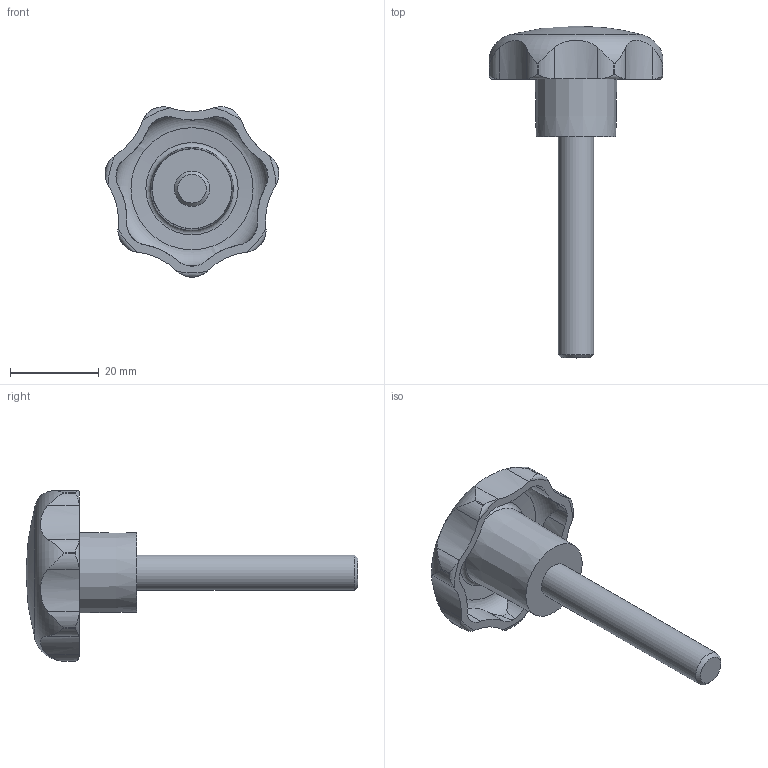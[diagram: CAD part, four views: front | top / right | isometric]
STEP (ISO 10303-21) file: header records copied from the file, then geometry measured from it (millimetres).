
FILE_DESCRIPTION( ( 'STEP AP203' ), '1' );
FILE_NAME( 'C:/Temp/Ganter_Step_05_03_2020/data/2_2/gn_6336_4/gn_6336_4_st/Star knob GN 6336.4-ST-40-M8-50.stp', '2020-03-05T12:07:30', ( 'License CC BY-ND 4.0' ), ( 'CADENAS' ), ' ', 'PARTsolutions', ' ' );
FILE_SCHEMA( ( 'CONFIG_CONTROL_DESIGN' ) );
Length unit declared in the file: millimetre
Products named in the file (1): _Star knob GN 6336.4-ST-40-M8-50
Bounding box: 39.25 x 75 x 38.52 mm (x, y, z)
Volume: 13316.3 mm3; surface area: 6139.8 mm2
Topology: 1 solids, 1 shells, 74 faces, 208 edges, 137 vertices
Faces by surface type: cylinder 43, torus 17, cone 10, plane 3, sphere 1
Full cylindrical faces by diameter (mm): 8 x1
Entity records: 3288 total; most frequent: CARTESIAN_POINT 1437, ORIENTED_EDGE 394, DIRECTION 362, EDGE_CURVE 197, AXIS2_PLACEMENT_3D 160, VERTEX_POINT 135, CIRCLE 85, EDGE_LOOP 83
